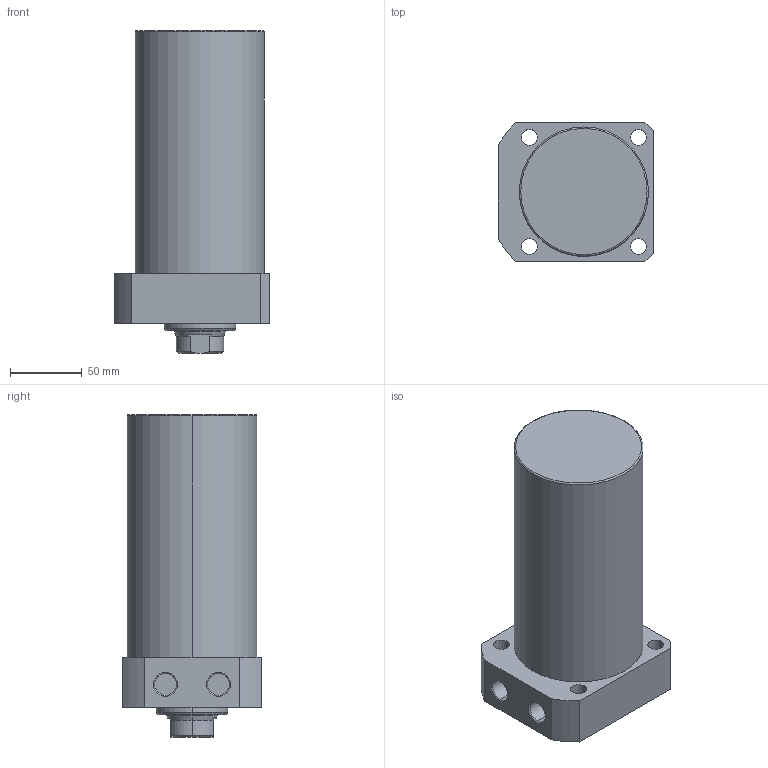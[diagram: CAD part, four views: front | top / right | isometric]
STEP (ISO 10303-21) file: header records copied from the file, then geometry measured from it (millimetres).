
FILE_DESCRIPTION (( 'STEP AP203' ), '1' );
FILE_NAME ('CLLR-090CA-125.STEP', '2019-12-18T06:27:45', ( '' ), ( '' ), 'SwSTEP 2.0', 'SolidWorks 2015', '' );
FILE_SCHEMA (( 'CONFIG_CONTROL_DESIGN' ));
Length unit declared in the file: millimetre
Products named in the file (1): CLLR-090CA-125
Bounding box: 108 x 97 x 225 mm (x, y, z)
Volume: 1424037 mm3; surface area: 92871.1 mm2
Topology: 1 solids, 1 shells, 65 faces, 151 edges, 94 vertices
Faces by surface type: cylinder 29, plane 19, cone 15, torus 2
Entity records: 1977 total; most frequent: CARTESIAN_POINT 357, DIRECTION 350, ORIENTED_EDGE 298, EDGE_CURVE 149, AXIS2_PLACEMENT_3D 143, VERTEX_POINT 94, EDGE_LOOP 81, CIRCLE 77
